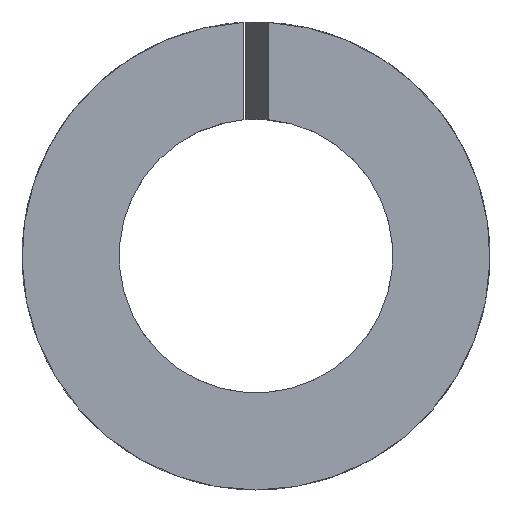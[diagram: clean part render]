
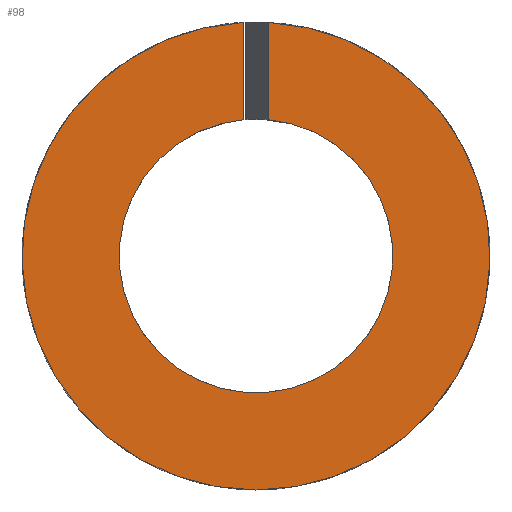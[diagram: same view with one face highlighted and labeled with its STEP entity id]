
A CAD part, left-side view. The second image highlights one B-rep face of the part: STEP entity #98.
In plain terms, the highlighted planar face has unit normal (-1, 0, 0).
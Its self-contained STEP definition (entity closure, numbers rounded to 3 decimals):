
#19=CIRCLE('',#132,1.55);
#20=CIRCLE('',#134,2.65);
#26=FACE_OUTER_BOUND('',#32,.T.);
#32=EDGE_LOOP('',(#85,#86,#87,#88));
#34=LINE('',#179,#38);
#35=LINE('',#185,#39);
#38=VECTOR('',#145,10.);
#39=VECTOR('',#150,10.);
#46=VERTEX_POINT('',#173);
#48=VERTEX_POINT('',#177);
#49=VERTEX_POINT('',#181);
#51=VERTEX_POINT('',#184);
#56=EDGE_CURVE('',#46,#48,#34,.T.);
#58=EDGE_CURVE('',#51,#49,#35,.T.);
#63=EDGE_CURVE('',#49,#46,#19,.T.);
#64=EDGE_CURVE('',#48,#51,#20,.T.);
#85=ORIENTED_EDGE('',*,*,#58,.T.);
#86=ORIENTED_EDGE('',*,*,#63,.T.);
#87=ORIENTED_EDGE('',*,*,#56,.T.);
#88=ORIENTED_EDGE('',*,*,#64,.T.);
#92=PLANE('',#135);
#98=ADVANCED_FACE('',(#26),#92,.T.);
#132=AXIS2_PLACEMENT_3D('',#193,#162,#163);
#134=AXIS2_PLACEMENT_3D('',#195,#166,#167);
#135=AXIS2_PLACEMENT_3D('',#196,#168,#169);
#145=DIRECTION('',(0.,0.,1.));
#150=DIRECTION('',(0.,0.,-1.));
#162=DIRECTION('center_axis',(1.,0.,0.));
#163=DIRECTION('ref_axis',(0.,-1.,0.));
#166=DIRECTION('center_axis',(-1.,0.,0.));
#167=DIRECTION('ref_axis',(0.,-1.,0.));
#168=DIRECTION('center_axis',(-1.,0.,0.));
#169=DIRECTION('ref_axis',(0.,0.,1.));
#173=CARTESIAN_POINT('',(0.,0.14,1.544));
#177=CARTESIAN_POINT('',(0.,0.14,2.646));
#179=CARTESIAN_POINT('',(0.,0.14,0.));
#181=CARTESIAN_POINT('',(0.,-0.14,1.544));
#184=CARTESIAN_POINT('',(0.,-0.14,2.646));
#185=CARTESIAN_POINT('',(0.,-0.14,0.));
#193=CARTESIAN_POINT('Origin',(0.,0.,0.));
#195=CARTESIAN_POINT('Origin',(0.,0.,0.));
#196=CARTESIAN_POINT('Origin',(0.,0.,0.));
